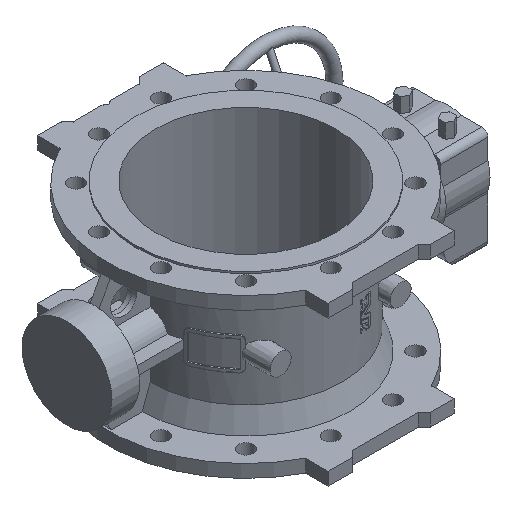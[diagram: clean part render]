
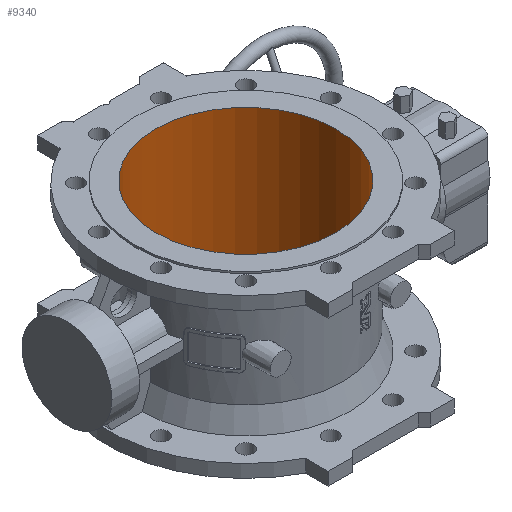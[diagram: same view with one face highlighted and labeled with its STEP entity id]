
A CAD part, isometric view. The second image highlights one B-rep face of the part: STEP entity #9340.
In plain terms, the highlighted cylindrical face has radius 150 mm (diameter 300 mm), a full revolution.
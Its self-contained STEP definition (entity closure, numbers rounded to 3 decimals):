
#387 = EDGE_LOOP ( 'NONE', ( #17235 ) ) ;
#388 = EDGE_LOOP ( 'NONE', ( #17236 ) ) ;
#2736 = AXIS2_PLACEMENT_3D ( 'NONE', #5652, #5647, #5656 ) ;
#5647 = DIRECTION ( 'NONE',  ( 0., 0., -1. ) ) ;
#5652 = CARTESIAN_POINT ( 'NONE',  ( 0., -6., -133.661 ) ) ;
#5656 = DIRECTION ( 'NONE',  ( 0., 1., 0. ) ) ;
#5726 = AXIS2_PLACEMENT_3D ( 'NONE', #10740, #10741, #10742 ) ;
#5728 = AXIS2_PLACEMENT_3D ( 'NONE', #10590, #10591, #10592 ) ;
#8510 = CIRCLE ( 'NONE', #5728, 150. ) ;
#8521 = CIRCLE ( 'NONE', #5726, 150. ) ;
#8969 = VERTEX_POINT ( 'NONE', #16131 ) ;
#8972 = VERTEX_POINT ( 'NONE', #16134 ) ;
#9340 = ADVANCED_FACE ( 'NONE', ( #15159, #15158 ), #15164, .F. ) ;
#10590 = CARTESIAN_POINT ( 'NONE',  ( 0., -6., -135. ) ) ;
#10591 = DIRECTION ( 'NONE',  ( 0., 0., -1. ) ) ;
#10592 = DIRECTION ( 'NONE',  ( 0., -1., 0. ) ) ;
#10740 = CARTESIAN_POINT ( 'NONE',  ( 0., -6., 135. ) ) ;
#10741 = DIRECTION ( 'NONE',  ( 0., 0., -1. ) ) ;
#10742 = DIRECTION ( 'NONE',  ( 0., 1., 0. ) ) ;
#13843 = EDGE_CURVE ( 'NONE', #8969, #8969, #8510, .T. ) ;
#13858 = EDGE_CURVE ( 'NONE', #8972, #8972, #8521, .T. ) ;
#15158 = FACE_OUTER_BOUND ( 'NONE', #388, .T. ) ;
#15159 = FACE_OUTER_BOUND ( 'NONE', #387, .T. ) ;
#15164 = CYLINDRICAL_SURFACE ( 'NONE', #2736, 150. ) ;
#16131 = CARTESIAN_POINT ( 'NONE',  ( 0., -156., -135. ) ) ;
#16134 = CARTESIAN_POINT ( 'NONE',  ( 0., 144., 135. ) ) ;
#17235 = ORIENTED_EDGE ( 'NONE', *, *, #13858, .F. ) ;
#17236 = ORIENTED_EDGE ( 'NONE', *, *, #13843, .T. ) ;
